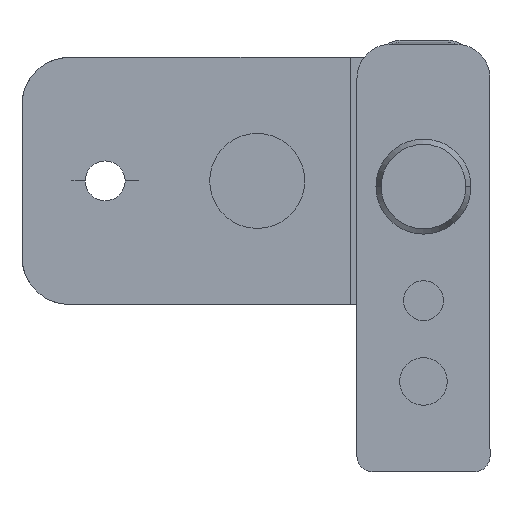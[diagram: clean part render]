
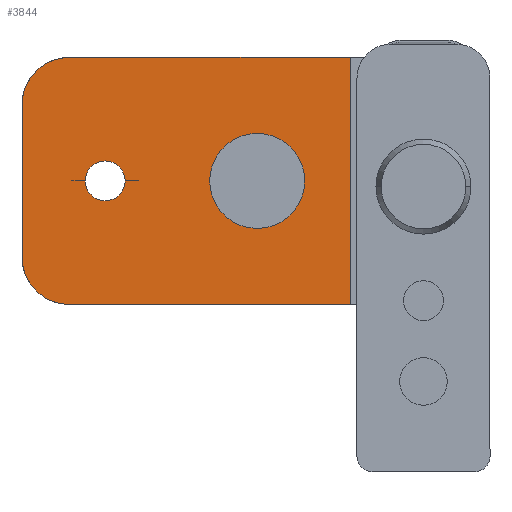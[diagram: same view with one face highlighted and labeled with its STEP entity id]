
A CAD part, front view. The second image highlights one B-rep face of the part: STEP entity #3844.
In plain terms, the highlighted planar face has unit normal (0, -1, 0).
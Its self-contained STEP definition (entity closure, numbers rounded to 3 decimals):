
#32 = VERTEX_POINT ( 'NONE', #1309 ) ;
#175 = CARTESIAN_POINT ( 'NONE',  ( -33.5, 447., 0.6 ) ) ;
#176 = DIRECTION ( 'NONE',  ( 0., 1., 0. ) ) ;
#177 = DIRECTION ( 'NONE',  ( -1., 0., 0. ) ) ;
#272 = PLANE ( 'NONE',  #710 ) ;
#273 = CARTESIAN_POINT ( 'NONE',  ( -42.25, 447., 13.6 ) ) ;
#274 = DIRECTION ( 'NONE',  ( 0., 1., 0. ) ) ;
#275 = DIRECTION ( 'NONE',  ( -1., 0., 0. ) ) ;
#673 = AXIS2_PLACEMENT_3D ( 'NONE', #1569, #1570, #1571 ) ;
#675 = AXIS2_PLACEMENT_3D ( 'NONE', #1587, #1588, #1589 ) ;
#676 = AXIS2_PLACEMENT_3D ( 'NONE', #1594, #1595, #1596 ) ;
#710 = AXIS2_PLACEMENT_3D ( 'NONE', #273, #274, #275 ) ;
#851 = AXIS2_PLACEMENT_3D ( 'NONE', #175, #176, #177 ) ;
#873 = CARTESIAN_POINT ( 'NONE',  ( -42.25, 447., 8.6 ) ) ;
#1018 = CARTESIAN_POINT ( 'NONE',  ( -7.7, 447., -12.4 ) ) ;
#1030 = CARTESIAN_POINT ( 'NONE',  ( -37.25, 447., 13.6 ) ) ;
#1094 = CARTESIAN_POINT ( 'NONE',  ( -7.7, 447., 13.6 ) ) ;
#1099 = CARTESIAN_POINT ( 'NONE',  ( -42.25, 447., -7.4 ) ) ;
#1104 = CARTESIAN_POINT ( 'NONE',  ( -37.25, 447., -12.4 ) ) ;
#1309 = CARTESIAN_POINT ( 'NONE',  ( -35.6, 447., 0.6 ) ) ;
#1569 = CARTESIAN_POINT ( 'NONE',  ( -37.25, 447., -7.4 ) ) ;
#1570 = DIRECTION ( 'NONE',  ( 0., -1., 0. ) ) ;
#1571 = DIRECTION ( 'NONE',  ( -1., 0., 0. ) ) ;
#1581 = CARTESIAN_POINT ( 'NONE',  ( -42.25, 447., 13.6 ) ) ;
#1582 = DIRECTION ( 'NONE',  ( 1., 0., 0. ) ) ;
#1587 = CARTESIAN_POINT ( 'NONE',  ( -33.5, 447., 0.6 ) ) ;
#1588 = DIRECTION ( 'NONE',  ( 0., 1., 0. ) ) ;
#1589 = DIRECTION ( 'NONE',  ( -1., 0., 0. ) ) ;
#1590 = CARTESIAN_POINT ( 'NONE',  ( -42.25, 447., -12.4 ) ) ;
#1591 = DIRECTION ( 'NONE',  ( 1., 0., 0. ) ) ;
#1592 = CARTESIAN_POINT ( 'NONE',  ( -7.7, 447., 13.6 ) ) ;
#1593 = DIRECTION ( 'NONE',  ( 0., 0., -1. ) ) ;
#1594 = CARTESIAN_POINT ( 'NONE',  ( -37.25, 447., 8.6 ) ) ;
#1595 = DIRECTION ( 'NONE',  ( 0., -1., 0. ) ) ;
#1596 = DIRECTION ( 'NONE',  ( -1., 0., 0. ) ) ;
#1666 = VERTEX_POINT ( 'NONE', #1094 ) ;
#1671 = VERTEX_POINT ( 'NONE', #1099 ) ;
#1676 = VERTEX_POINT ( 'NONE', #1104 ) ;
#1681 = VERTEX_POINT ( 'NONE', #1018 ) ;
#1693 = VERTEX_POINT ( 'NONE', #1030 ) ;
#1889 = VERTEX_POINT ( 'NONE', #4500 ) ;
#2323 = CARTESIAN_POINT ( 'NONE',  ( -42.25, 447., 13.6 ) ) ;
#2324 = DIRECTION ( 'NONE',  ( 0., 0., -1. ) ) ;
#2576 = EDGE_CURVE ( 'NONE', #4001, #1671, #2627, .T. ) ;
#2596 = EDGE_CURVE ( 'NONE', #1671, #1676, #2660, .T. ) ;
#2601 = EDGE_CURVE ( 'NONE', #1693, #1666, #2668, .T. ) ;
#2604 = EDGE_CURVE ( 'NONE', #32, #1889, #2675, .T. ) ;
#2605 = EDGE_CURVE ( 'NONE', #1676, #1681, #2674, .T. ) ;
#2606 = EDGE_CURVE ( 'NONE', #1666, #1681, #2677, .T. ) ;
#2607 = EDGE_CURVE ( 'NONE', #1693, #4001, #2680, .T. ) ;
#2627 = LINE ( 'NONE', #2323, #2628 ) ;
#2628 = VECTOR ( 'NONE', #2324, 1000. ) ;
#2660 = CIRCLE ( 'NONE', #673, 5. ) ;
#2668 = LINE ( 'NONE', #1581, #2669 ) ;
#2669 = VECTOR ( 'NONE', #1582, 1000. ) ;
#2674 = LINE ( 'NONE', #1590, #2676 ) ;
#2675 = CIRCLE ( 'NONE', #675, 2.1 ) ;
#2676 = VECTOR ( 'NONE', #1591, 1000. ) ;
#2677 = LINE ( 'NONE', #1592, #2678 ) ;
#2678 = VECTOR ( 'NONE', #1593, 1000. ) ;
#2680 = CIRCLE ( 'NONE', #676, 5. ) ;
#2768 = FACE_BOUND ( 'NONE', #3696, .T. ) ;
#2769 = FACE_OUTER_BOUND ( 'NONE', #3695, .T. ) ;
#3071 = CIRCLE ( 'NONE', #851, 2.1 ) ;
#3695 = EDGE_LOOP ( 'NONE', ( #4290, #4289, #4288, #4287, #4286, #4285 ) ) ;
#3696 = EDGE_LOOP ( 'NONE', ( #4292, #4291 ) ) ;
#3844 = ADVANCED_FACE ( 'NONE', ( #2768, #2769 ), #272, .F. ) ;
#4001 = VERTEX_POINT ( 'NONE', #873 ) ;
#4285 = ORIENTED_EDGE ( 'NONE', *, *, #2607, .T. ) ;
#4286 = ORIENTED_EDGE ( 'NONE', *, *, #2601, .F. ) ;
#4287 = ORIENTED_EDGE ( 'NONE', *, *, #2606, .F. ) ;
#4288 = ORIENTED_EDGE ( 'NONE', *, *, #2605, .T. ) ;
#4289 = ORIENTED_EDGE ( 'NONE', *, *, #2596, .T. ) ;
#4290 = ORIENTED_EDGE ( 'NONE', *, *, #2576, .T. ) ;
#4291 = ORIENTED_EDGE ( 'NONE', *, *, #4683, .T. ) ;
#4292 = ORIENTED_EDGE ( 'NONE', *, *, #2604, .T. ) ;
#4500 = CARTESIAN_POINT ( 'NONE',  ( -31.4, 447., 0.6 ) ) ;
#4683 = EDGE_CURVE ( 'NONE', #1889, #32, #3071, .T. ) ;
